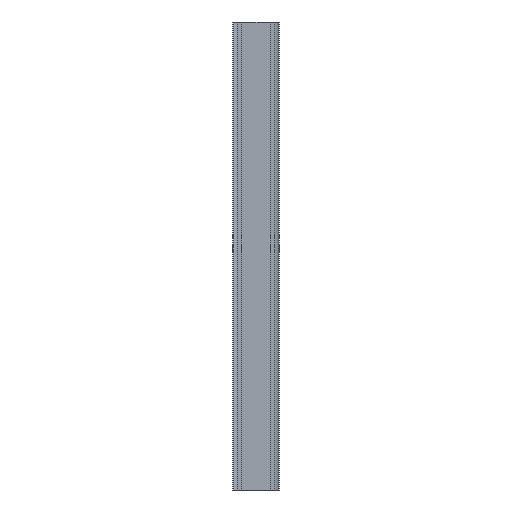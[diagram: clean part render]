
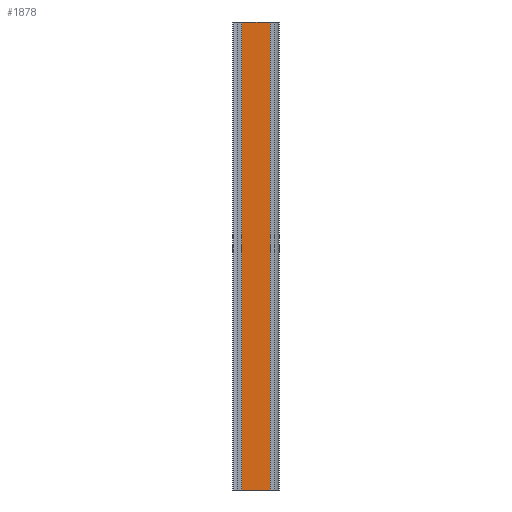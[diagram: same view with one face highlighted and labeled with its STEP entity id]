
A CAD part, front view. The second image highlights one B-rep face of the part: STEP entity #1878.
In plain terms, the highlighted planar face has unit normal (0, -1, 0).
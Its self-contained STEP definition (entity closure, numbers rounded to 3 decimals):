
#4 = AXIS2_PLACEMENT_3D ( 'NONE', #2259, #1102, #737 ) ;
#127 = CARTESIAN_POINT ( 'NONE',  ( -250., 0., 7.5 ) ) ;
#208 = EDGE_CURVE ( 'NONE', #286, #2300, #1754, .T. ) ;
#286 = VERTEX_POINT ( 'NONE', #127 ) ;
#292 = ORIENTED_EDGE ( 'NONE', *, *, #2179, .F. ) ;
#310 = LINE ( 'NONE', #1065, #1907 ) ;
#320 = ORIENTED_EDGE ( 'NONE', *, *, #208, .T. ) ;
#418 = LINE ( 'NONE', #1749, #768 ) ;
#472 = LINE ( 'NONE', #484, #2294 ) ;
#484 = CARTESIAN_POINT ( 'NONE',  ( -250., 0., 7.5 ) ) ;
#551 = PLANE ( 'NONE',  #4 ) ;
#618 = EDGE_CURVE ( 'NONE', #2300, #2264, #418, .T. ) ;
#640 = DIRECTION ( 'NONE',  ( 1., 0., 0. ) ) ;
#675 = DIRECTION ( 'NONE',  ( 0., 0., -1. ) ) ;
#737 = DIRECTION ( 'NONE',  ( 0., 0., -1. ) ) ;
#750 = FACE_OUTER_BOUND ( 'NONE', #769, .T. ) ;
#768 = VECTOR ( 'NONE', #640, 1000. ) ;
#769 = EDGE_LOOP ( 'NONE', ( #292, #1792, #320, #1172 ) ) ;
#842 = DIRECTION ( 'NONE',  ( 1., 0., 0. ) ) ;
#906 = CARTESIAN_POINT ( 'NONE',  ( 0., 0., -7.5 ) ) ;
#1065 = CARTESIAN_POINT ( 'NONE',  ( 0., 0., 7.5 ) ) ;
#1102 = DIRECTION ( 'NONE',  ( 0., -1., 0. ) ) ;
#1172 = ORIENTED_EDGE ( 'NONE', *, *, #618, .T. ) ;
#1256 = EDGE_CURVE ( 'NONE', #286, #1315, #472, .T. ) ;
#1315 = VERTEX_POINT ( 'NONE', #2379 ) ;
#1345 = VECTOR ( 'NONE', #1557, 1000. ) ;
#1557 = DIRECTION ( 'NONE',  ( 0., 0., -1. ) ) ;
#1591 = CARTESIAN_POINT ( 'NONE',  ( -250., 0., 7.5 ) ) ;
#1749 = CARTESIAN_POINT ( 'NONE',  ( -250., 0., -7.5 ) ) ;
#1754 = LINE ( 'NONE', #1591, #1345 ) ;
#1792 = ORIENTED_EDGE ( 'NONE', *, *, #1256, .F. ) ;
#1878 = ADVANCED_FACE ( 'NONE', ( #750 ), #551, .T. ) ;
#1907 = VECTOR ( 'NONE', #675, 1000. ) ;
#2179 = EDGE_CURVE ( 'NONE', #1315, #2264, #310, .T. ) ;
#2259 = CARTESIAN_POINT ( 'NONE',  ( -250., 0., 7.5 ) ) ;
#2264 = VERTEX_POINT ( 'NONE', #906 ) ;
#2294 = VECTOR ( 'NONE', #842, 1000. ) ;
#2300 = VERTEX_POINT ( 'NONE', #2423 ) ;
#2379 = CARTESIAN_POINT ( 'NONE',  ( 0., 0., 7.5 ) ) ;
#2423 = CARTESIAN_POINT ( 'NONE',  ( -250., 0., -7.5 ) ) ;
